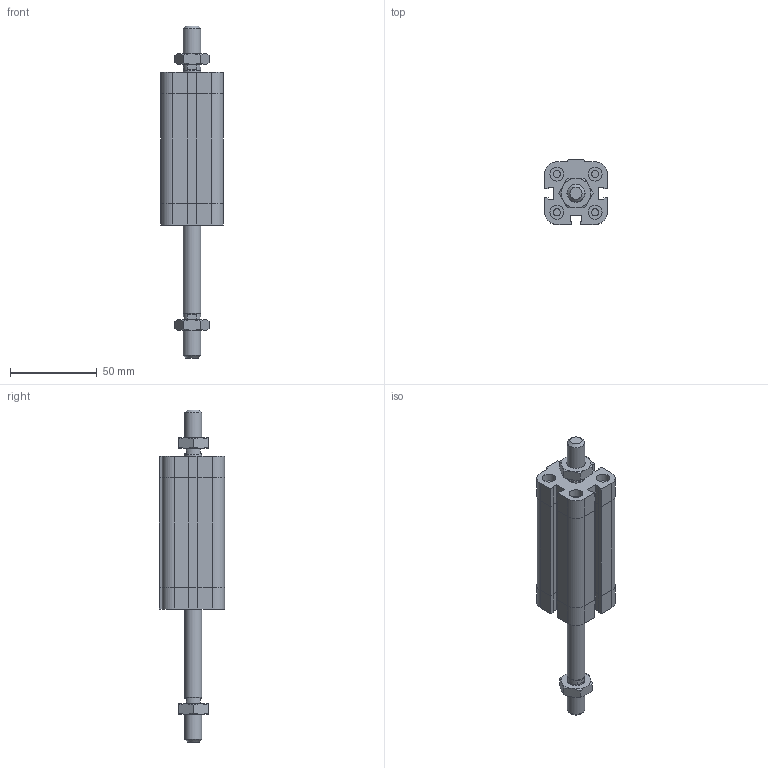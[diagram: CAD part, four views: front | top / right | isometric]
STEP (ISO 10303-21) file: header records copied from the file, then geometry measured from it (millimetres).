
FILE_DESCRIPTION((''),'2;1');
FILE_NAME('I:\Area Tecnica\Disegni\VARIE-3D\Componenti\EUROPE\15##_###_####_04_#\1581_20_0050_04_1.iam.stp','2009-04-20T14:50:00',(''),(''),'Autodesk Inventor 2009','Autodesk Inventor 2009','');
FILE_SCHEMA(('AUTOMOTIVE_DESIGN { 1 0 10303 214 1 1 1 1 }'));
Length unit declared in the file: millimetre
Products named in the file (4): 1581_20_0050_04_1; 1581_20_0050_03_1_C; 1561_20_0050_04_1_S; DBFM10
Assembly tree (4 placements, depth 2):
  1581_20_0050_04_1
    1581_20_0050_03_1_C
    1561_20_0050_04_1_S
    DBFM10  x2
Bounding box: 36 x 37.5 x 191 mm (x, y, z)
Volume: 109288.4 mm3; surface area: 30931.8 mm2
Topology: 4 solids, 4 shells, 222 faces, 483 edges, 289 vertices
Faces by surface type: plane 129, cone 35, bspline 33, cylinder 25
Full cylindrical faces by diameter (mm): 4.134 x4, 7.9 x1, 8 x4, 9.8 x2, 10 x2
Entity records: 5450 total; most frequent: CARTESIAN_POINT 1222, DIRECTION 802, ORIENTED_EDGE 772, EDGE_CURVE 386, AXIS2_PLACEMENT_3D 272, EDGE_LOOP 258, VECTOR 258, LINE 258
